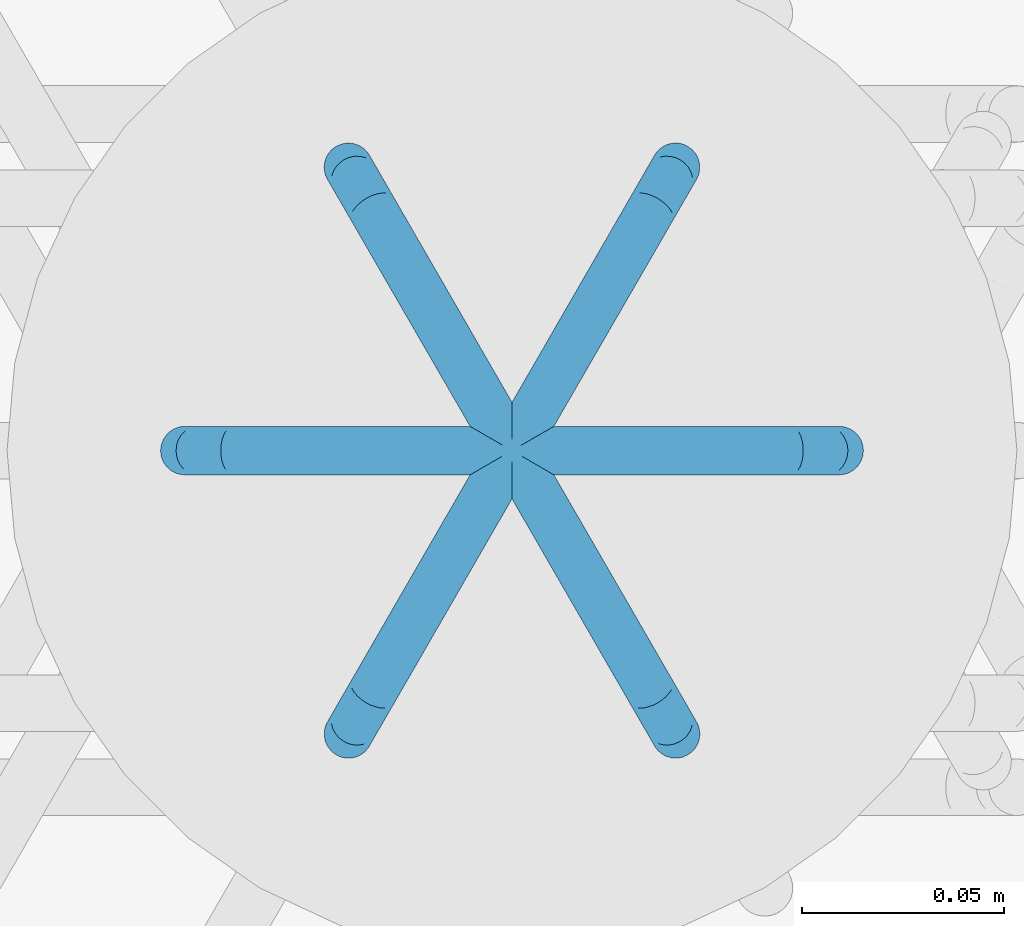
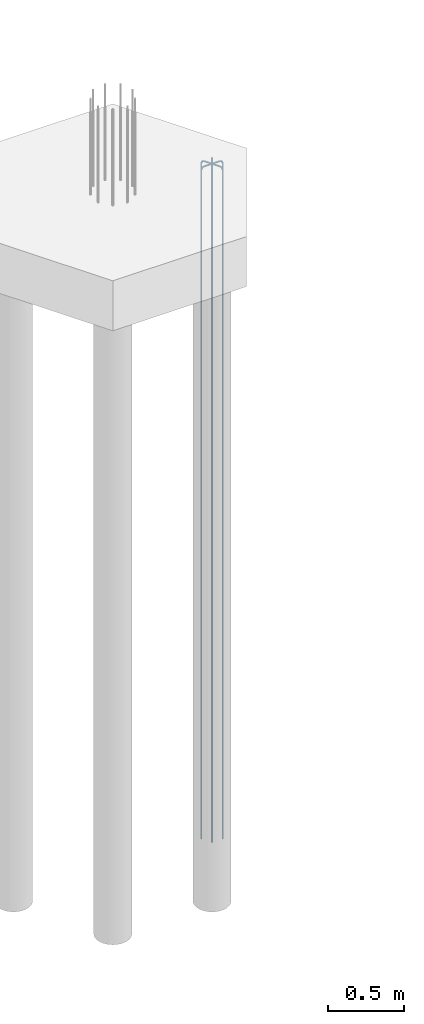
# One storey, part 11 of 23: 1 reinforcing bar.
"""IFC2X3 building model written with IfcOpenShell, lengths in metres."""

from ifc_helpers import new_model, entity, si_unit, direction, frame, origin, place, context, subcontext, project, spatial, shape, source, transform, mapped, element, save


model = new_model("IFC2X3")

# Units and contexts
model_context = context("Model", 3, precision=0.0, world=origin(), true_north=direction((0.0, 1.0)))
plan_context = context("Plan", 3, precision=0.0, world=origin(), true_north=direction((0.0, 1.0)))
body_context = subcontext(model_context, "Body", "Model", "MODEL_VIEW", scale=1.0)
ifc_project = project(units=[si_unit("LENGTHUNIT", "METRE"), si_unit("AREAUNIT", "SQUARE_METRE"), si_unit("VOLUMEUNIT", "CUBIC_METRE"), si_unit("PLANEANGLEUNIT", "RADIAN"), si_unit("THERMODYNAMICTEMPERATUREUNIT", "DEGREE_CELSIUS"), si_unit("FORCEUNIT", "NEWTON"), si_unit("MASSUNIT", "GRAM", prefix="KILO")], contexts=[model_context, plan_context])

# Site, building, storey
placement = place(None, origin())
site = spatial("IfcSite", under=ifc_project, at=placement, Name="Default Site", CompositionType="ELEMENT")
building = spatial("IfcBuilding", under=site, at=placement, Name="Default Building", CompositionType="ELEMENT")
storey_placement = place(placement, frame((0.0, 0.0, 0.0), z_axis=(1.0, 0.0, 0.0), x_axis=(0.0, 0.0, 1.0)))
storey = spatial("IfcBuildingStorey", under=building, at=storey_placement, Name="Piano 0", CompositionType="ELEMENT", Elevation=0.0)

# Reinforcing bar
shared_shape_1 = source(origin(), body_context, None, "AdvancedSweptSolid", [
    entity("IfcSweptDiskSolid", entity("IfcCompositeCurve", [entity("IfcCompositeCurveSegment", "CONTINUOUS", True, entity("IfcPolyline", [entity("IfcCartesianPoint", [0.0, 0.0, 0.0]), entity("IfcCartesianPoint", [-0.096, 0.0, 0.0]), entity("IfcCartesianPoint", [-0.108, 0.0, -0.003215]), entity("IfcCartesianPoint", [-0.116785, 0.0, -0.012]), entity("IfcCartesianPoint", [-0.12, 0.0, -0.024]), entity("IfcCartesianPoint", [-0.12, 0.0, -5.366])]))], False), 0.006, 0.0, 0.0),
])
shared_shape_2 = source(origin(), body_context, None, "AdvancedSweptSolid", [
    entity("IfcSweptDiskSolid", entity("IfcCompositeCurve", [entity("IfcCompositeCurveSegment", "CONTINUOUS", True, entity("IfcPolyline", [entity("IfcCartesianPoint", [0.0, 0.0, 0.0]), entity("IfcCartesianPoint", [-0.096, 0.0, 0.0]), entity("IfcCartesianPoint", [-0.108, 0.0, -0.003215]), entity("IfcCartesianPoint", [-0.116785, 0.0, -0.012]), entity("IfcCartesianPoint", [-0.12, 0.0, -0.024]), entity("IfcCartesianPoint", [-0.12, 0.0, -5.366])]))], False), 0.006, 0.0, 0.0),
])
shared_shape_3 = source(origin(), body_context, None, "AdvancedSweptSolid", [
    entity("IfcSweptDiskSolid", entity("IfcCompositeCurve", [entity("IfcCompositeCurveSegment", "CONTINUOUS", True, entity("IfcPolyline", [entity("IfcCartesianPoint", [0.0, 0.0, 0.0]), entity("IfcCartesianPoint", [-0.096, 0.0, 0.0]), entity("IfcCartesianPoint", [-0.108, 0.0, -0.003215]), entity("IfcCartesianPoint", [-0.116785, 0.0, -0.012]), entity("IfcCartesianPoint", [-0.12, 0.0, -0.024]), entity("IfcCartesianPoint", [-0.12, 0.0, -5.366])]))], False), 0.006, 0.0, 0.0),
])
shared_shape_4 = source(origin(), body_context, None, "AdvancedSweptSolid", [
    entity("IfcSweptDiskSolid", entity("IfcCompositeCurve", [entity("IfcCompositeCurveSegment", "CONTINUOUS", True, entity("IfcPolyline", [entity("IfcCartesianPoint", [0.0, 0.0, 0.0]), entity("IfcCartesianPoint", [-0.096, 0.0, 0.0]), entity("IfcCartesianPoint", [-0.108, 0.0, -0.003215]), entity("IfcCartesianPoint", [-0.116785, 0.0, -0.012]), entity("IfcCartesianPoint", [-0.12, 0.0, -0.024]), entity("IfcCartesianPoint", [-0.12, 0.0, -5.366])]))], False), 0.006, 0.0, 0.0),
])
shared_shape_5 = source(origin(), body_context, None, "AdvancedSweptSolid", [
    entity("IfcSweptDiskSolid", entity("IfcCompositeCurve", [entity("IfcCompositeCurveSegment", "CONTINUOUS", True, entity("IfcPolyline", [entity("IfcCartesianPoint", [0.0, 0.0, 0.0]), entity("IfcCartesianPoint", [-0.096, 0.0, 0.0]), entity("IfcCartesianPoint", [-0.108, 0.0, -0.003215]), entity("IfcCartesianPoint", [-0.116785, 0.0, -0.012]), entity("IfcCartesianPoint", [-0.12, 0.0, -0.024]), entity("IfcCartesianPoint", [-0.12, 0.0, -5.366])]))], False), 0.006, 0.0, 0.0),
])
shared_shape_6 = source(origin(), body_context, None, "AdvancedSweptSolid", [
    entity("IfcSweptDiskSolid", entity("IfcCompositeCurve", [entity("IfcCompositeCurveSegment", "CONTINUOUS", True, entity("IfcPolyline", [entity("IfcCartesianPoint", [0.0, 0.0, 0.0]), entity("IfcCartesianPoint", [-0.096, 0.0, 0.0]), entity("IfcCartesianPoint", [-0.108, 0.0, -0.003215]), entity("IfcCartesianPoint", [-0.116785, 0.0, -0.012]), entity("IfcCartesianPoint", [-0.12, 0.0, -0.024]), entity("IfcCartesianPoint", [-0.12, 0.0, -5.366])]))], False), 0.006, 0.0, 0.0),
])
element("IfcReinforcingBar", 1, at=placement, inside=storey, Name="Arm Principale; Palo:5 Filo:3 [Piano:0]", BarLength=32.916, BarRole="MAIN", BarSurface="TEXTURED", NominalDiameter=0.012, shapes=[
    shape(body_context, None, "MappedRepresentation", [mapped(shared_shape_1, transform((8.789, 0.0, -0.034))), mapped(shared_shape_2, transform((8.7695, 0.033775, -0.034), x_axis=(0.5, 0.866025, 0.0), y_axis=(-0.866025, 0.5, 0.0))), mapped(shared_shape_3, transform((8.7305, 0.033775, -0.034), x_axis=(-0.5, 0.866025, 0.0), y_axis=(-0.866025, -0.5, 0.0))), mapped(shared_shape_4, transform((8.711, 0.0, -0.034), x_axis=(-1.0, 0.0, 0.0), y_axis=(0.0, -1.0, 0.0))), mapped(shared_shape_5, transform((8.7305, -0.033775, -0.034), x_axis=(-0.5, -0.866025, 0.0), y_axis=(0.866025, -0.5, 0.0))), mapped(shared_shape_6, transform((8.7695, -0.033775, -0.034), x_axis=(0.5, -0.866025, 0.0), y_axis=(0.866025, 0.5, 0.0)))]),
])

save(model, "model.ifc")
